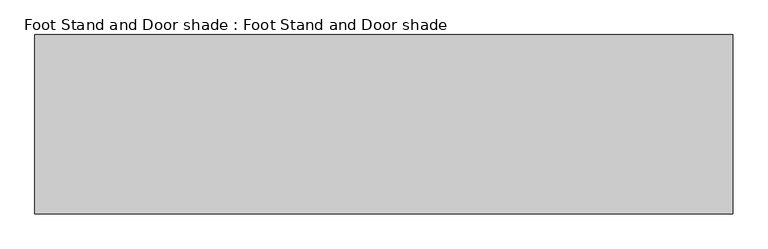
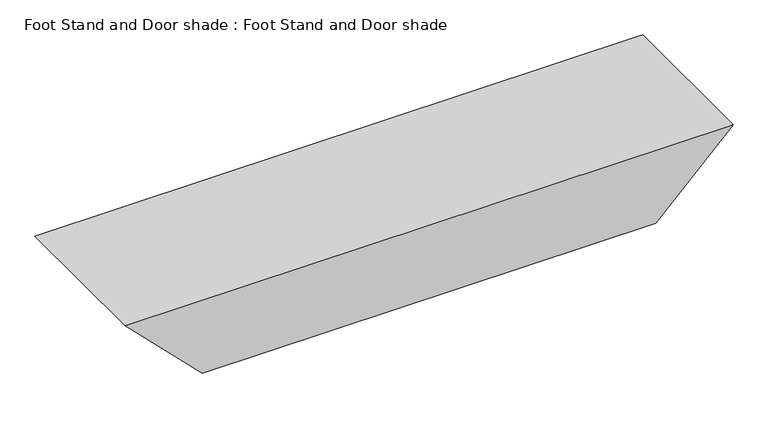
"""IFC4 building model written with IfcOpenShell, lengths in millimetres: beam geometry, Foot Stand and Door shade : Foot Stand and Door shade."""

from ifc_helpers import new_model, si_unit, frame, origin, place, context, project, spatial, polyline, outline, extrude, source, transform, mapped, element, save


def foot_stand_and_door_shade_foot_stand_and_door_shade_9e24d134(model_context):
    return source(origin(), model_context, "Body", "SweptSolid", [
        extrude(outline(polyline([(2958.876, 60.3806761), (2808.0, 211.2566761), (2808.0, 1096.3038922), (2958.876, 1247.1798922), (2958.876, 60.3806761)])), frame((0.0, 249.0, 0.0), z_axis=(0.0, 1.0, 0.0), x_axis=(0.0, 0.0, 1.0)), (0.0, 0.0, 1.0), 305.0),
    ])


if __name__ == "__main__":
    model = new_model("IFC4")
    model_context = context("Model", 3, world=origin())
    ifc_project = project(units=[si_unit("LENGTHUNIT", "METRE", prefix="MILLI")], contexts=[model_context])
    site = spatial("IfcSite", under=ifc_project)
    building = spatial("IfcBuilding", under=site)
    placement = place(None, origin())
    foot_stand_and_door_shade_foot_stand_and_door_shade_shape = foot_stand_and_door_shade_foot_stand_and_door_shade_9e24d134(model_context)
    element("IfcBeam", 1, ObjectType="Foot Stand and Door shade : Foot Stand and Door shade", at=placement, inside=building, context=model_context, shape_type="MappedRepresentation", body=[
        mapped(foot_stand_and_door_shade_foot_stand_and_door_shade_shape, transform((0.0, 0.0, 0.0), x_axis=(1.0, 0.0, 0.0), y_axis=(0.0, 1.0, 0.0), z_axis=(0.0, 0.0, 1.0))),
    ])
    save(model, "model.ifc")
